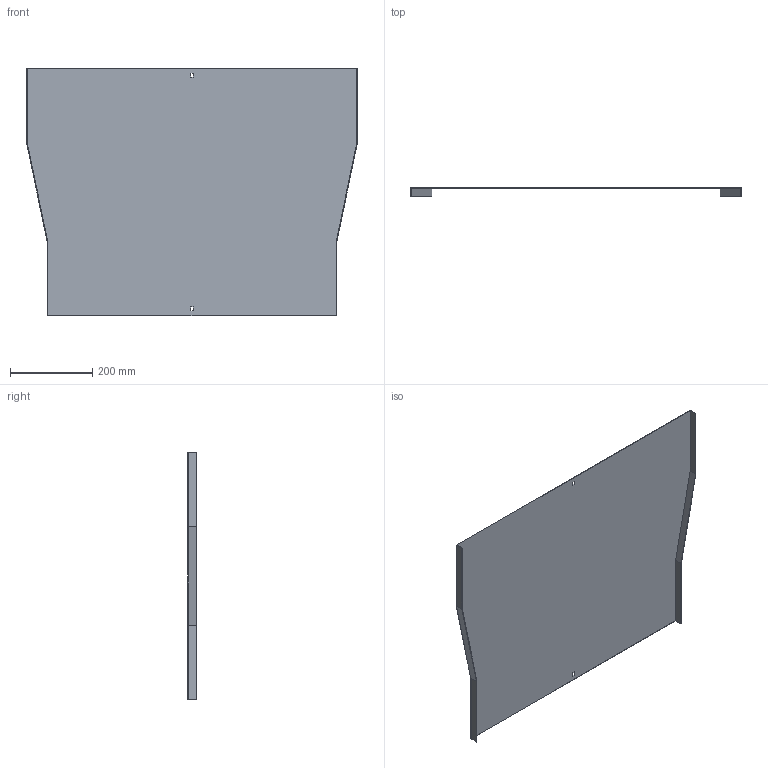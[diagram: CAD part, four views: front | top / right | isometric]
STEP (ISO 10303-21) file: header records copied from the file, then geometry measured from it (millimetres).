
FILE_DESCRIPTION (( 'STEP AP214' ), '1' );
FILE_NAME ('B2X20N7R800X.step', '2025-09-02T15:44:19', ( '' ), ( '' ), 'SwSTEP 2.0', 'SolidWorks 2023', '' );
FILE_SCHEMA (( 'AUTOMOTIVE_DESIGN' ));
Length unit declared in the file: millimetre
Products named in the file (1): B2X20N7R800X
Bounding box: 803 x 20 x 600 mm (x, y, z)
Volume: 711110.5 mm3; surface area: 952425.8 mm2
Topology: 1 solids, 1 shells, 26 faces, 72 edges, 48 vertices
Faces by surface type: plane 26
Entity records: 847 total; most frequent: CARTESIAN_POINT 147, ORIENTED_EDGE 144, DIRECTION 126, LINE 72, EDGE_CURVE 72, VECTOR 72, VERTEX_POINT 48, EDGE_LOOP 30
